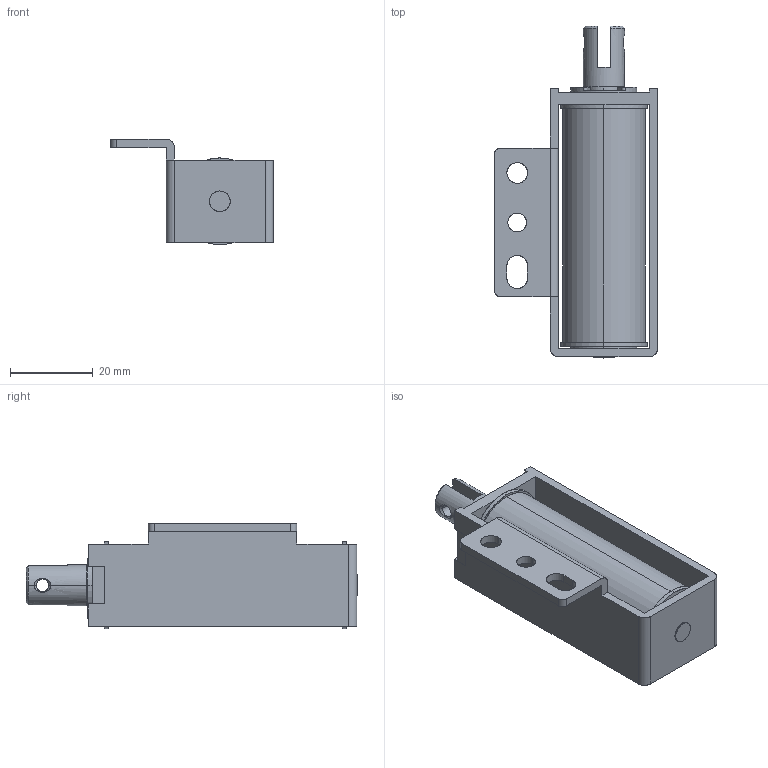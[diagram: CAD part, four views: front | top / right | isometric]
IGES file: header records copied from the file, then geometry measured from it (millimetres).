
Start section: SolidWorks IGES file using analytic representation for surfaces
Global section: file name: L:\カタログ\web用3Dデータ\CE1064\3D_CE1064\w_ce1064.IGS; native system: SolidWorks 2014; preprocessor: SolidWorks 2014; author: jiba; date: 140724.115953; units: millimetre
Bounding box: 39.5 x 80.4 x 25.5 mm (x, y, z)
Surface area: 16390.5 mm2 (no closed solid volume)
Topology: 0 solids, 0 shells, 138 faces, 2253 edges, 2253 vertices
Faces by surface type: revolution 70, bspline 68
